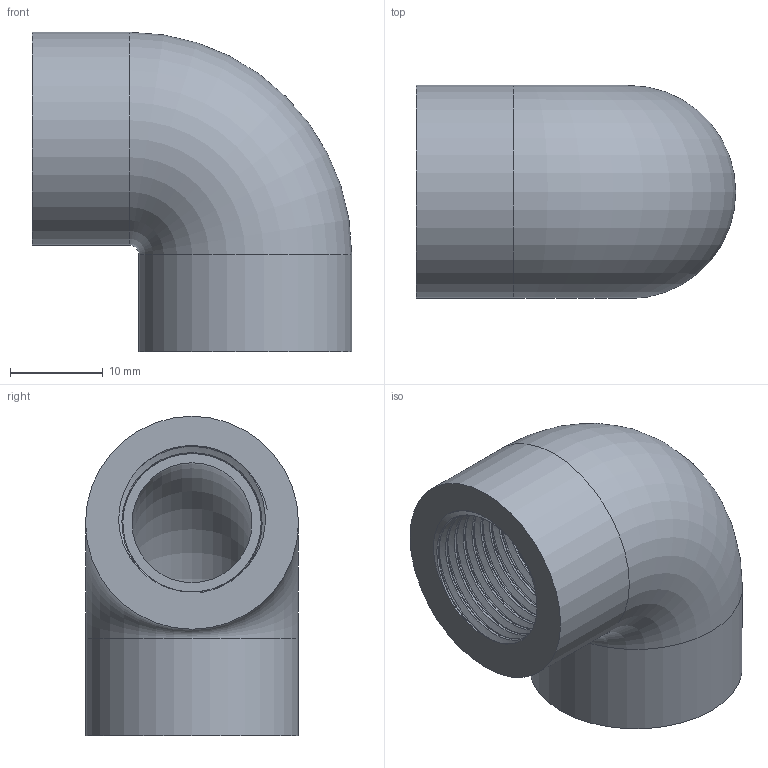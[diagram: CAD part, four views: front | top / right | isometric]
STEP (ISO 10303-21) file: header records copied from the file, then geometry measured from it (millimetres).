
FILE_DESCRIPTION(/* description */ ('PVC gomito a 90° filettato BSP femmina'),/* implementation_level */ '2;1');
FILE_NAME(/* name */ 'C:\Users\POLYPIPE\Desktop\DATASET INVENTOR\LIBRERIA EFFAST\RACCORDI 3DxWEB\RER\3D_RERGOE\3D_RERGOE016A.stp',/* time_stamp */ '2018-01-19T16:17:31+01:00',/* author */ ('POLYPIPE'),/* organization */ ('Polypipe Italia s.r.l.'),/* preprocessor_version */ 'ST-DEVELOPER v16.1',/* originating_system */ 'Autodesk Inventor 2016',/* authorisation */ '');
FILE_SCHEMA (('CONFIG_CONTROL_DESIGN'));
Length unit declared in the file: millimetre
Products named in the file (1): 3D_RERGOE
Bounding box: 34.5 x 23 x 34.5 mm (x, y, z)
Volume: 10031.2 mm3; surface area: 6381.3 mm2
Topology: 1 solids, 1 shells, 22 faces, 48 edges, 30 vertices
Faces by surface type: bspline 10, plane 6, cylinder 4, torus 2
Full cylindrical faces by diameter (mm): 23 x2
Entity records: 7498 total; most frequent: CARTESIAN_POINT 7063, ORIENTED_EDGE 92, DIRECTION 60, EDGE_CURVE 44, EDGE_LOOP 30, VERTEX_POINT 30, AXIS2_PLACEMENT_3D 27, B_SPLINE_CURVE_WITH_KNOTS 24
